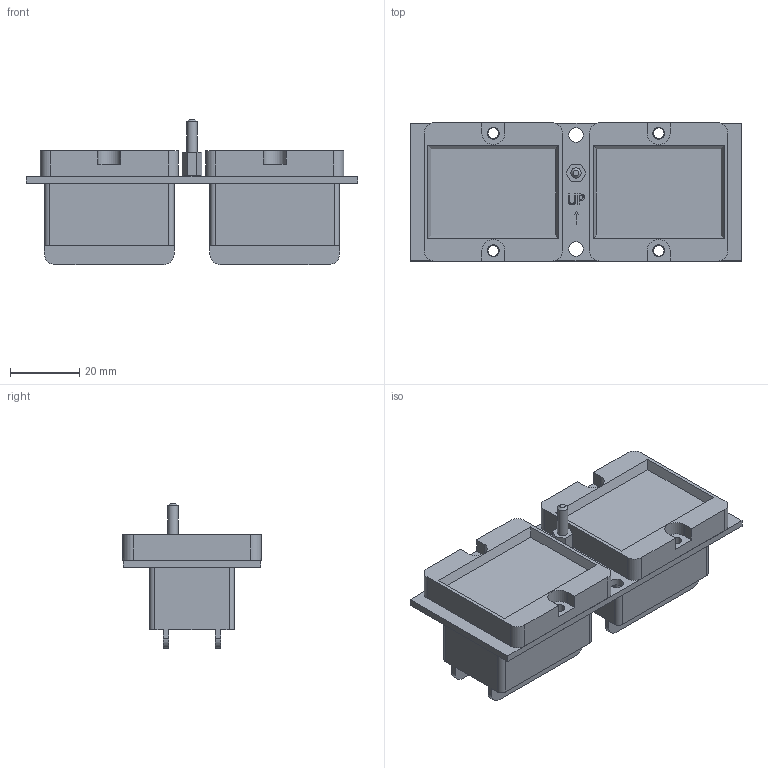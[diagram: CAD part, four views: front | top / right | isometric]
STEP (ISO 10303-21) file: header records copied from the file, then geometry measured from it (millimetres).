
FILE_DESCRIPTION((''),'2;1');
FILE_NAME('K:\TB\Bibliotheek Inventor\Relais voeten\V97 voet\V97 voet.stp','2007-06-15T10:55:07',('Arnoud'),(''),'Autodesk Inventor 2008','Autodesk Inventor 2008','');
FILE_SCHEMA(('AUTOMOTIVE_DESIGN { 1 0 10303 214 1 1 1 1 }'));
Length unit declared in the file: millimetre
Products named in the file (1): Part5
Bounding box: 95.9 x 40 x 42 mm (x, y, z)
Volume: 59603.9 mm3; surface area: 18553.1 mm2
Topology: 1 solids, 1 shells, 185 faces, 510 edges, 339 vertices
Faces by surface type: plane 117, cylinder 37, bspline 30, cone 1
Full cylindrical faces by diameter (mm): 3 x1
Entity records: 6235 total; most frequent: CARTESIAN_POINT 1492, ORIENTED_EDGE 960, DIRECTION 863, EDGE_CURVE 480, VECTOR 337, LINE 337, VERTEX_POINT 325, AXIS2_PLACEMENT_3D 263
